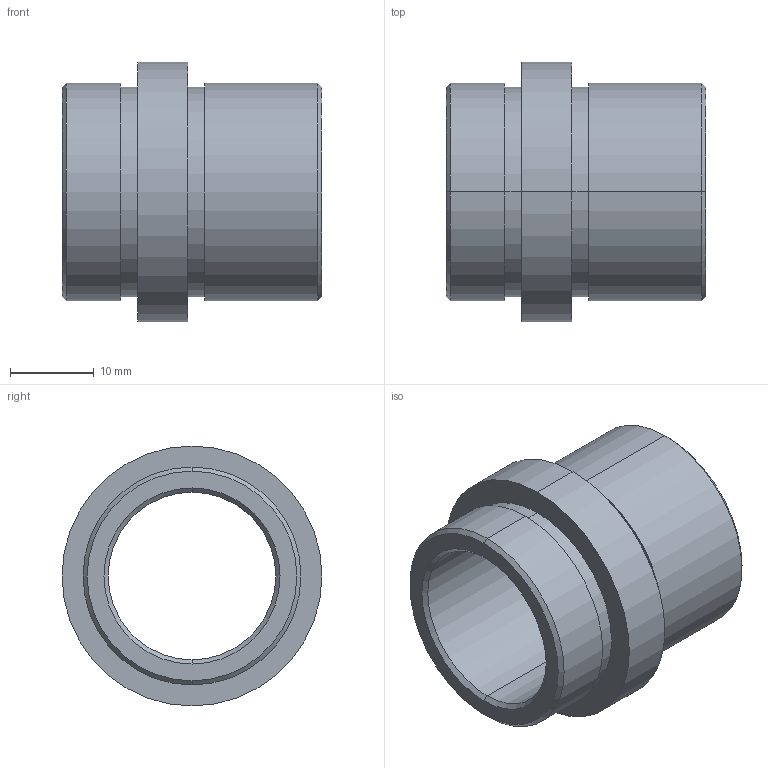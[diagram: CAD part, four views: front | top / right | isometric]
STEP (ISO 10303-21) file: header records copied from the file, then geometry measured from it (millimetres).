
FILE_DESCRIPTION( ( 'STEP AP203' ), '1' );
FILE_NAME( 'D:/Delta 3 D/D21/D21 - 20x22.step', '2002-12-31T22:40:08', ( ' ' ), ( ' ' ), 'XStep 1.0', ' ', ' ' );
FILE_SCHEMA( ( 'CONFIG_CONTROL_DESIGN' ) );
Length unit declared in the file: metre
Products named in the file (1): 1
Bounding box: 31 x 31 x 31 mm (x, y, z)
Volume: 7866.5 mm3; surface area: 5518.4 mm2
Topology: 1 solids, 1 shells, 26 faces, 52 edges, 32 vertices
Faces by surface type: revolution 20, bspline 6
Entity records: 773 total; most frequent: CARTESIAN_POINT 169, DIRECTION 106, ORIENTED_EDGE 104, EDGE_CURVE 52, AXIS2_PLACEMENT_3D 33, EDGE_LOOP 32, VERTEX_POINT 32, CIRCLE 32
